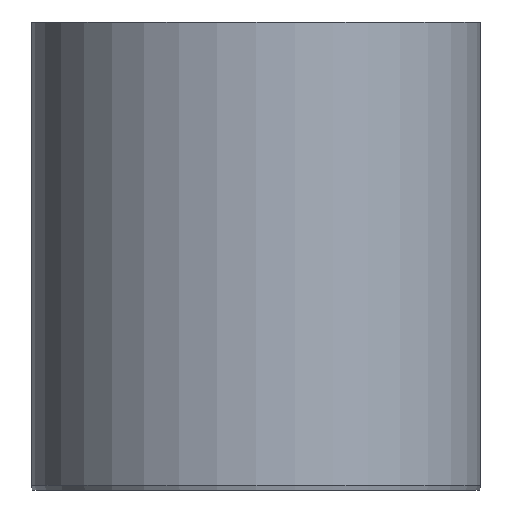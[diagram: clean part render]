
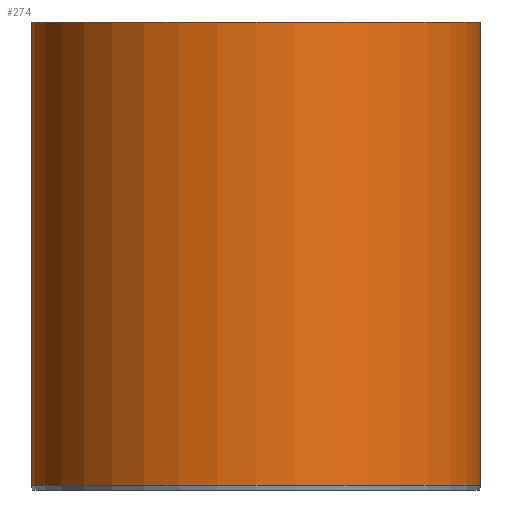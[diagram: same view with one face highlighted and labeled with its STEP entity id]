
A CAD part, front view. The second image highlights one B-rep face of the part: STEP entity #274.
In plain terms, the highlighted cylindrical face has radius 48 mm (diameter 96 mm), a partial arc.
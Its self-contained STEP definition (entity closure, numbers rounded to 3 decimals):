
#213=CARTESIAN_POINT('Vertex',(48.,0.,100.)) ;
#215=CARTESIAN_POINT('Vertex',(-48.,0.,100.)) ;
#218=CARTESIAN_POINT('Axis2P3D Location',(0.,0.,100.)) ;
#232=CARTESIAN_POINT('Axis2P3D Location',(0.,0.,50.)) ;
#237=CARTESIAN_POINT('Line Origine',(-48.,0.,50.)) ;
#241=CARTESIAN_POINT('Vertex',(-48.,0.,1.)) ;
#244=CARTESIAN_POINT('Line Origine',(48.,0.,50.)) ;
#248=CARTESIAN_POINT('Vertex',(48.,0.,1.)) ;
#263=CARTESIAN_POINT('Axis2P3D Location',(0.,0.,1.)) ;
#219=DIRECTION('Axis2P3D Direction',(0.,0.,1.)) ;
#233=DIRECTION('Axis2P3D Direction',(0.,0.,1.)) ;
#234=DIRECTION('Axis2P3D XDirection',(1.,0.,0.)) ;
#238=DIRECTION('Vector Direction',(0.,0.,1.)) ;
#245=DIRECTION('Vector Direction',(0.,0.,1.)) ;
#264=DIRECTION('Axis2P3D Direction',(0.,0.,1.)) ;
#220=AXIS2_PLACEMENT_3D('Circle Axis2P3D',#218,#219,$) ;
#235=AXIS2_PLACEMENT_3D('Cylinder Axis2P3D',#232,#233,#234) ;
#265=AXIS2_PLACEMENT_3D('Circle Axis2P3D',#263,#264,$) ;
#269=ORIENTED_EDGE('',*,*,#250,.T.) ;
#270=ORIENTED_EDGE('',*,*,#222,.F.) ;
#271=ORIENTED_EDGE('',*,*,#243,.F.) ;
#272=ORIENTED_EDGE('',*,*,#267,.T.) ;
#239=VECTOR('Line Direction',#238,1.) ;
#246=VECTOR('Line Direction',#245,1.) ;
#274=ADVANCED_FACE('PartBody',(#273),#236,.T.) ;
#221=CIRCLE('generated circle',#220,48.) ;
#266=CIRCLE('generated circle',#265,48.) ;
#236=CYLINDRICAL_SURFACE('generated cylinder',#235,48.) ;
#222=EDGE_CURVE('',#216,#214,#221,.T.) ;
#243=EDGE_CURVE('',#242,#216,#240,.T.) ;
#250=EDGE_CURVE('',#249,#214,#247,.T.) ;
#267=EDGE_CURVE('',#242,#249,#266,.T.) ;
#268=EDGE_LOOP('',(#269,#270,#271,#272)) ;
#273=FACE_OUTER_BOUND('',#268,.T.) ;
#240=LINE('Line',#237,#239) ;
#247=LINE('Line',#244,#246) ;
#214=VERTEX_POINT('',#213) ;
#216=VERTEX_POINT('',#215) ;
#242=VERTEX_POINT('',#241) ;
#249=VERTEX_POINT('',#248) ;
